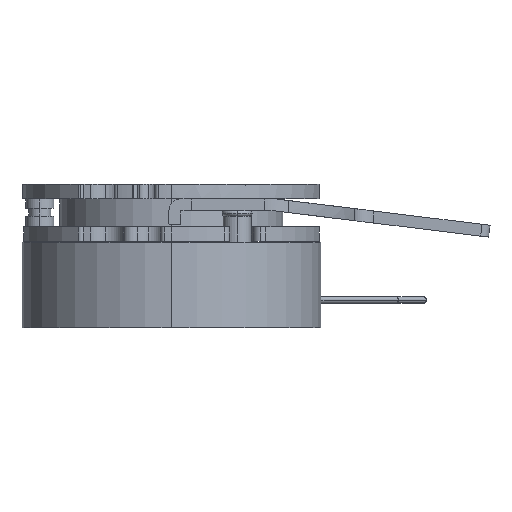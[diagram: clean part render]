
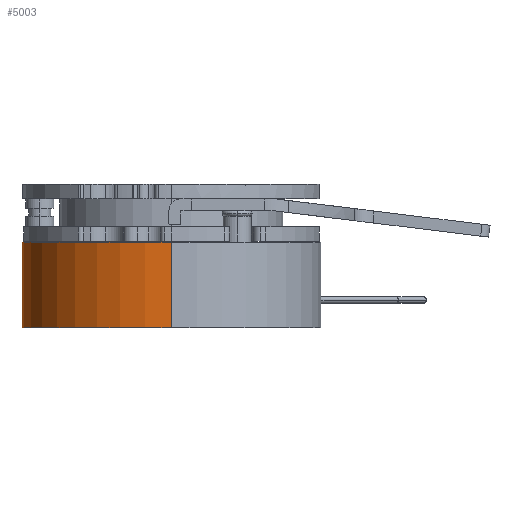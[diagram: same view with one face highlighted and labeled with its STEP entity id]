
A CAD part, left-side view. The second image highlights one B-rep face of the part: STEP entity #5003.
In plain terms, the highlighted cylindrical face has radius 37.5 mm (diameter 75 mm), a partial arc.
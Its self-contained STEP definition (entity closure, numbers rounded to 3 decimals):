
#2112 = AXIS2_PLACEMENT_3D ( 'NONE', #8140, #8141, #8142 ) ;
#2113 = AXIS2_PLACEMENT_3D ( 'NONE', #8145, #8146, #8147 ) ;
#5003 = ADVANCED_FACE ( 'NONE', ( #12249 ), #12257, .T. ) ;
#7046 = CIRCLE ( 'NONE', #2113, 37.5 ) ;
#7052 = CIRCLE ( 'NONE', #2112, 37.5 ) ;
#7056 = LINE ( 'NONE', #8134, #7060 ) ;
#7060 = VECTOR ( 'NONE', #8135, 1000. ) ;
#7062 = LINE ( 'NONE', #8143, #7066 ) ;
#7066 = VECTOR ( 'NONE', #8139, 1000. ) ;
#8134 = CARTESIAN_POINT ( 'NONE',  ( 37.5, 0., 21.5 ) ) ;
#8135 = DIRECTION ( 'NONE',  ( 0., 0., -1. ) ) ;
#8139 = DIRECTION ( 'NONE',  ( 0., 0., -1. ) ) ;
#8140 = CARTESIAN_POINT ( 'NONE',  ( 0., 0., 21.5 ) ) ;
#8141 = DIRECTION ( 'NONE',  ( 0., 0., 1. ) ) ;
#8142 = DIRECTION ( 'NONE',  ( 1., 0., 0. ) ) ;
#8143 = CARTESIAN_POINT ( 'NONE',  ( -37.5, 0., 21.5 ) ) ;
#8145 = CARTESIAN_POINT ( 'NONE',  ( 0., 0., 0. ) ) ;
#8146 = DIRECTION ( 'NONE',  ( 0., 0., 1. ) ) ;
#8147 = DIRECTION ( 'NONE',  ( 1., 0., 0. ) ) ;
#8329 = CARTESIAN_POINT ( 'NONE',  ( 37.5, 0., 21.5 ) ) ;
#8330 = CARTESIAN_POINT ( 'NONE',  ( -37.5, 0., 21.5 ) ) ;
#8335 = CARTESIAN_POINT ( 'NONE',  ( 37.5, 0., 0. ) ) ;
#8336 = CARTESIAN_POINT ( 'NONE',  ( -37.5, 0., 0. ) ) ;
#8646 = EDGE_LOOP ( 'NONE', ( #9097, #9098, #9099, #9100 ) ) ;
#9097 = ORIENTED_EDGE ( 'NONE', *, *, #9781, .F. ) ;
#9098 = ORIENTED_EDGE ( 'NONE', *, *, #9782, .T. ) ;
#9099 = ORIENTED_EDGE ( 'NONE', *, *, #9783, .T. ) ;
#9100 = ORIENTED_EDGE ( 'NONE', *, *, #9784, .F. ) ;
#9781 = EDGE_CURVE ( 'NONE', #10615, #10616, #7052, .T. ) ;
#9782 = EDGE_CURVE ( 'NONE', #10615, #10621, #7056, .T. ) ;
#9783 = EDGE_CURVE ( 'NONE', #10621, #10622, #7046, .T. ) ;
#9784 = EDGE_CURVE ( 'NONE', #10616, #10622, #7062, .T. ) ;
#10615 = VERTEX_POINT ( 'NONE', #8329 ) ;
#10616 = VERTEX_POINT ( 'NONE', #8330 ) ;
#10621 = VERTEX_POINT ( 'NONE', #8335 ) ;
#10622 = VERTEX_POINT ( 'NONE', #8336 ) ;
#12249 = FACE_OUTER_BOUND ( 'NONE', #8646, .T. ) ;
#12257 = CYLINDRICAL_SURFACE ( 'NONE', #12412, 37.5 ) ;
#12412 = AXIS2_PLACEMENT_3D ( 'NONE', #12943, #12944, #12952 ) ;
#12943 = CARTESIAN_POINT ( 'NONE',  ( 0., 0., 21.5 ) ) ;
#12944 = DIRECTION ( 'NONE',  ( 0., 0., -1. ) ) ;
#12952 = DIRECTION ( 'NONE',  ( -1., 0., 0. ) ) ;
